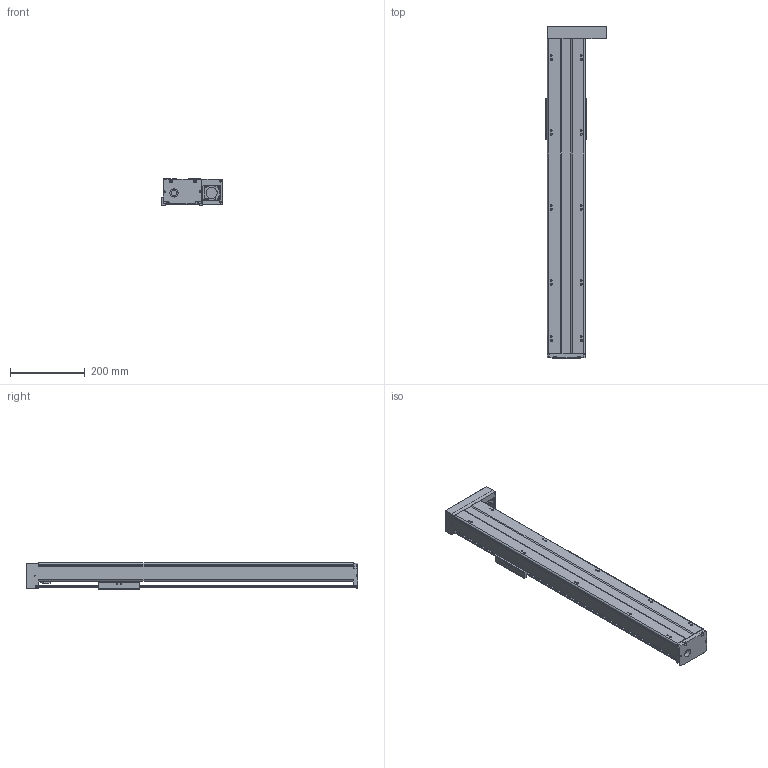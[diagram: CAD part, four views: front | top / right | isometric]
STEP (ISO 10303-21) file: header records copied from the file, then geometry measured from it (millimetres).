
FILE_DESCRIPTION(/* description */ (''),/* implementation_level */ '2;1');
FILE_NAME(/* name */ 'TKA100-FR-650_asm1.stp',/* time_stamp */ '2016-05-17T15:43:07+08:00',/* author */ (''),/* organization */ (''),/* preprocessor_version */ 'ST-DEVELOPER v15',/* originating_system */ 'SIEMENS PLM Software NX 8.5',/* authorisation */ '');
FILE_SCHEMA (('AUTOMOTIVE_DESIGN { 1 0 10303 214 3 1 1 1 }'));
Length unit declared in the file: millimetre
Products named in the file (3): 200-2; 200-1; TKA100-FR-650_asm1
Assembly tree (2 placements, depth 2):
  TKA100-FR-650_asm1
    200-1
    200-2
Bounding box: 162 x 886 x 71 mm (x, y, z)
Volume: 1924347.3 mm3; surface area: 656808.7 mm2
Topology: 2 solids, 16 shells, 798 faces, 2074 edges, 1353 vertices
Faces by surface type: plane 322, cylinder 301, cone 121, torus 28, bspline 26
Full cylindrical faces by diameter (mm): 2.5 x6, 2.6 x8, 3.3 x11, 3.4 x4, 3.8 x8, 4.2 x19, 4.3 x4, 4.5 x6, 5 x2, 5.5 x18, 6.6 x4, 8 x4, 9 x6, 10 x11, 11 x4, 12 x6, 15.3 x1, 16 x1, 22 x1, 24 x1, 28 x2, 30 x1, 33 x1
Entity records: 29066 total; most frequent: CARTESIAN_POINT 10602, DIRECTION 3787, ORIENTED_EDGE 3584, EDGE_CURVE 1792, AXIS2_PLACEMENT_3D 1495, VERTEX_POINT 1270, EDGE_LOOP 1097, ADVANCED_FACE 798
